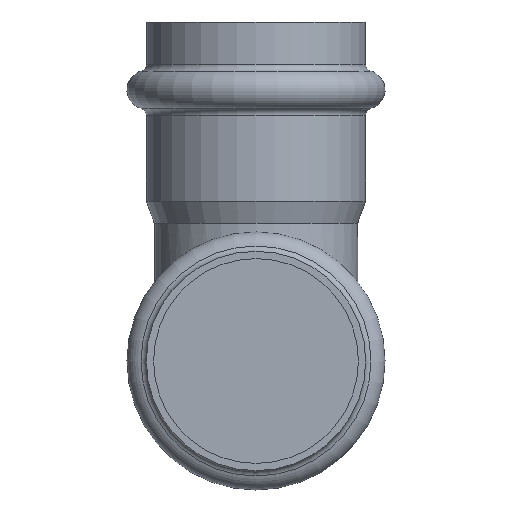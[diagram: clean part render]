
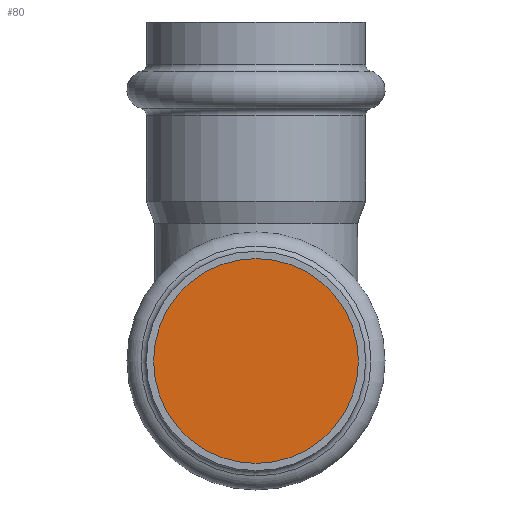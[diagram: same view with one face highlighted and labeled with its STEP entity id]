
A CAD part, front view. The second image highlights one B-rep face of the part: STEP entity #80.
In plain terms, the highlighted planar face has unit normal (0, -1, 0).
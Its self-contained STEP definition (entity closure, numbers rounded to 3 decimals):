
#80=ADVANCED_FACE('',(#325),#327,.T.);
#325=FACE_BOUND('',#326,.T.);
#326=EDGE_LOOP('',(#401));
#327=PLANE('',#328);
#328=AXIS2_PLACEMENT_3D('',#329,#330,#331);
#329=CARTESIAN_POINT('',(0.,-60.292,0.));
#330=DIRECTION('',(0.,-1.,0.));
#331=DIRECTION('',(0.,0.,-1.));
#401=ORIENTED_EDGE('',*,*,#433,.T.);
#433=EDGE_CURVE('',#495,#495,#496,.F.);
#495=VERTEX_POINT('',#649);
#496=CIRCLE('',#650,21.15);
#649=CARTESIAN_POINT('',(0.,-60.292,21.15));
#650=AXIS2_PLACEMENT_3D('',#651,#652,#653);
#651=CARTESIAN_POINT('',(0.,-60.292,0.));
#652=DIRECTION('',(0.,1.,0.));
#653=DIRECTION('',(0.,0.,1.));
